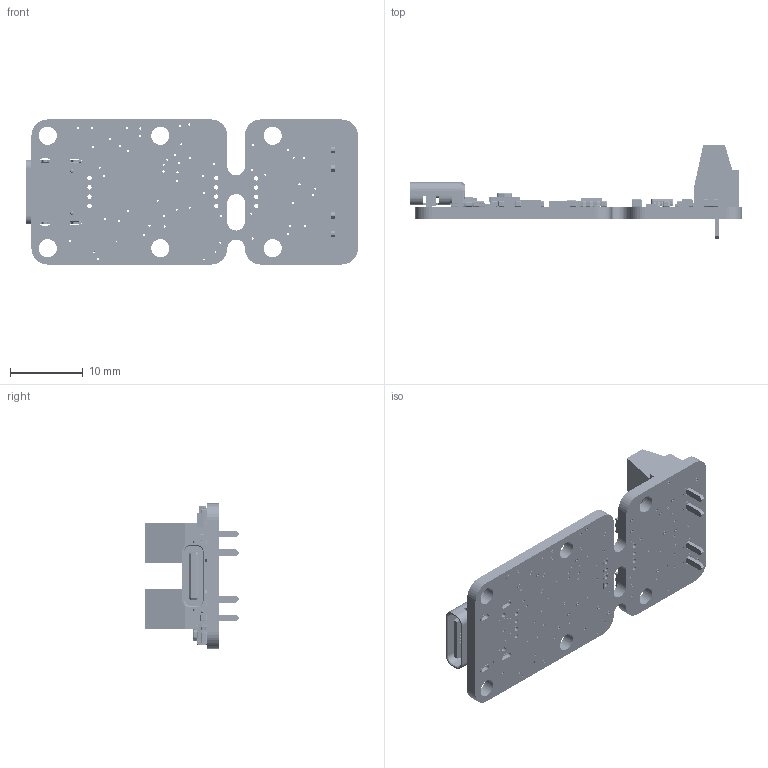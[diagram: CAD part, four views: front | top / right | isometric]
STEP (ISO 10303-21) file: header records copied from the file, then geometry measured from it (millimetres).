
FILE_DESCRIPTION (( 'STEP AP214' ), '1' );
FILE_NAME ('THRMCP1C.STEP', '2025-01-30T09:56:13', ( '' ), ( '' ), 'SwSTEP 2.0', 'SolidWorks 2008', '' );
FILE_SCHEMA (( 'AUTOMOTIVE_DESIGN' ));
Length unit declared in the file: millimetre
Products named in the file (36): PCB; B11; C2; C18; P3; C25; C27; AD1; D2; FLASH1; C19; C24; OSC1_D; C16; THRMCP1C; R20; PVSS; R18; R21; R4; R19; USB1; R22; R5; R16; U1; R2; R12; sens1; TEMP1; REG2; YLED; R1; R7; REG1; SW1
Assembly tree (57 placements, depth 2):
  THRMCP1C
    OSC1_D
    C25  x8
    R4
    R19  x4
    D2  x2
    R1
    C27  x2
    C16
    C19  x3
    R2
    PCB
    P3  x2
    FLASH1
    C24  x2
    C18
    R18  x2
    R12
    B11
    TEMP1
    R16  x2
    R7  x2
    AD1
    R22  x4
    R21  x2
    R20
    REG1
    U1
    sens1
    R5
    YLED
    C2
    REG2
    USB1
    SW1
  PVSS
Bounding box: 45.75 x 12.9 x 20 mm (x, y, z)
Volume: 2042.9 mm3; surface area: 4003 mm2
Topology: 65 solids, 65 shells, 8272 faces, 21501 edges, 13897 vertices
Faces by surface type: plane 5048, cylinder 2096, bspline 917, sphere 192, cone 12, torus 7
Entity records: 324014 total; most frequent: CARTESIAN_POINT 87148, ORIENTED_EDGE 36322, DIRECTION 32363, EDGE_CURVE 18161, VECTOR 12937, LINE 12937, VERTEX_POINT 11962, AXIS2_PLACEMENT_3D 9713
